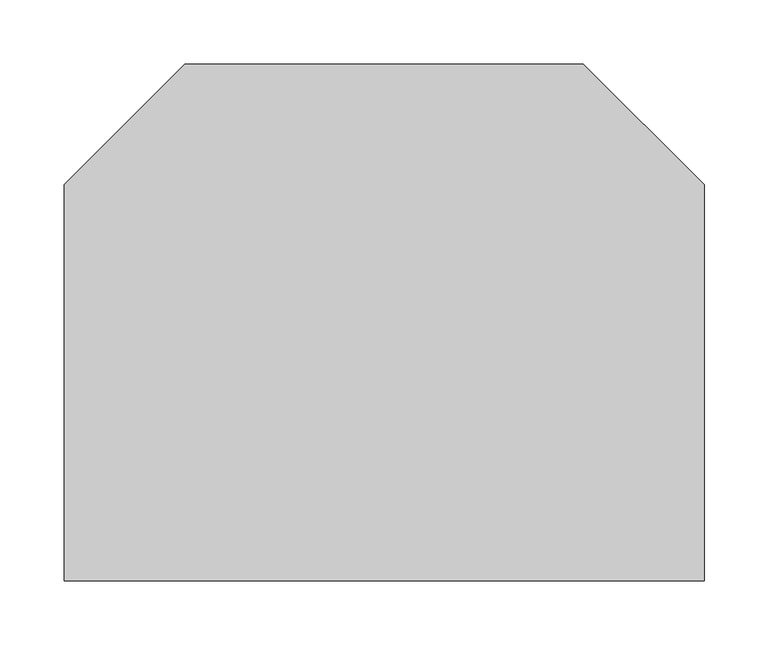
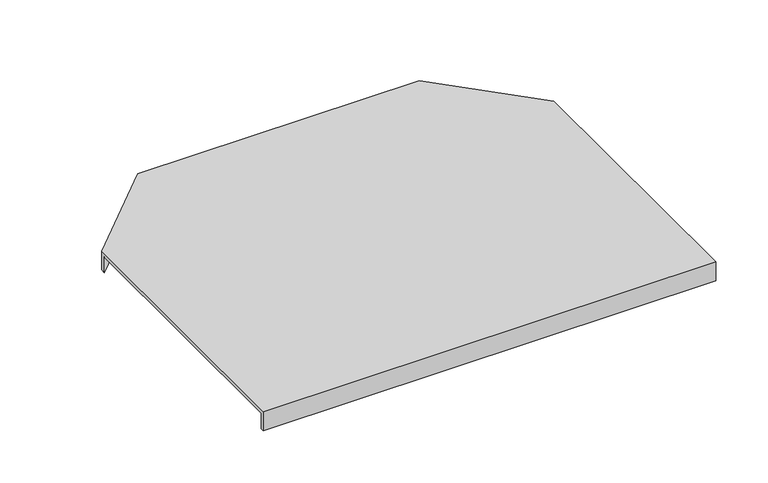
"""IFC4 building model written with IfcOpenShell, lengths in millimetres: proxy geometry, Horizontal Tee_Cover_TTEWT_Basorcanal : Basorcanal TTEWT 300."""

import ifcopenshell
import ifcopenshell.guid

model = None  # the IFC model being written
_history = None  # IfcOwnerHistory: only IFC2X3 demands one
_inside = {}  # id of a spatial element -> (the spatial element, [elements in it])
_under = {}  # id of a project, library or spatial element -> (it, [spatial elements below it])
_declared = {}  # id of a project -> (the project, [libraries it declares])
_typed = {}  # id of a type object -> (the type object, [elements of that type])
_made_of = {}  # id of a material, layer set ... -> (it, [elements and type objects made of it])


def new_model(schema):
    """Start an empty IFC model of exactly this schema.

    Asked for "IFC4X3", IfcOpenShell would pick the latest addendum, in which some entities
    have other attributes; the version numbers below select the first issue.
    IFC2X3 requires an IfcOwnerHistory on every rooted entity: one is made here for all.
    """
    global model, _history
    if schema == "IFC4X3":
        model = ifcopenshell.file(schema_version=(4, 3, 0, 0))
    else:
        model = ifcopenshell.file(schema=schema)
    _inside.clear()
    _under.clear()
    _declared.clear()
    _typed.clear()
    _made_of.clear()
    _history = None
    if model.schema == "IFC2X3":
        org = make("IfcOrganization", Name="unknown")
        user = make(
            "IfcPersonAndOrganization",
            ThePerson=make("IfcPerson", FamilyName="unknown"),
            TheOrganization=org,
        )
        app = make(
            "IfcApplication",
            ApplicationDeveloper=org,
            Version="unknown",
            ApplicationFullName="unknown",
            ApplicationIdentifier="unknown",
        )
        _history = make(
            "IfcOwnerHistory",
            OwningUser=user,
            OwningApplication=app,
            ChangeAction="ADDED",
            CreationDate=0,
        )
    return model


def make(cls, **values):
    """One entity of the class cls with the attributes given. An attribute that is None is left unset."""
    return model.create_entity(
        cls, **{name: value for name, value in values.items() if value is not None}
    )


def rooted(cls, **values):
    """An entity with a GlobalId (a new one), such as an element, a storey or a relation."""
    return make(cls, GlobalId=ifcopenshell.guid.new(), OwnerHistory=_history, **values)


def si_unit(unit_type, name, prefix=None):
    """IfcSIUnit, for example si_unit("LENGTHUNIT", "METRE", prefix="MILLI")."""
    return make("IfcSIUnit", UnitType=unit_type, Prefix=prefix, Name=name)


def assignment(units):
    """IfcUnitAssignment: the units of a project."""
    return None if units is None else make("IfcUnitAssignment", Units=units)


def point(xyz):
    """IfcCartesianPoint."""
    return None if xyz is None else make("IfcCartesianPoint", Coordinates=xyz)


def direction(xyz):
    """IfcDirection."""
    return None if xyz is None else make("IfcDirection", DirectionRatios=xyz)


def frame(location, z_axis=None, x_axis=None):
    """IfcAxis2Placement3D, a coordinate frame: its origin and axes. An axis left out is left unset."""
    return make(
        "IfcAxis2Placement3D",
        Location=point(location),
        Axis=direction(z_axis),
        RefDirection=direction(x_axis),
    )


def origin():
    """The frame at (0, 0, 0) with its axes left unset."""
    return frame((0.0, 0.0, 0.0))


def place(relative_to, where):
    """IfcLocalPlacement: puts the frame where relative to a parent placement (None: the world)."""
    return make(
        "IfcLocalPlacement", PlacementRelTo=relative_to, RelativePlacement=where
    )


def context(
    kind, dimensions, precision=None, world=None, true_north=None, identifier=None
):
    """IfcGeometricRepresentationContext, for example the 3D "Model" context."""
    return make(
        "IfcGeometricRepresentationContext",
        ContextIdentifier=identifier,
        ContextType=kind,
        CoordinateSpaceDimension=dimensions,
        Precision=precision,
        WorldCoordinateSystem=world,
        TrueNorth=true_north,
    )


def project(units=None, contexts=None):
    """IfcProject with its units and contexts."""
    return rooted(
        "IfcProject",
        Name="project",
        RepresentationContexts=contexts,
        UnitsInContext=assignment(units),
    )


def spatial(cls, under=None, at=None, **own):
    """A site, building, storey or space (cls), placed at a placement, below another one or the project."""
    s = rooted(cls, ObjectPlacement=at, **own)
    if under is not None:
        _under.setdefault(under.id(), (under, []))[1].append(s)
    return s


def faces_of(points, faces, orient=None, outer=None):
    """IfcFace entities. A face is a list of loops; a loop is a list of indices into points, from 0.

    orient and outer hold one flag for each loop. By default every Orientation is true, the
    first loop of a face is its IfcFaceOuterBound and the others are IfcFaceBound.
    """
    made = []
    for i, loops in enumerate(faces):
        bounds = []
        for j, loop in enumerate(loops):
            is_outer = j == 0 if outer is None else outer[i][j]
            bounds.append(
                make(
                    "IfcFaceOuterBound" if is_outer else "IfcFaceBound",
                    Bound=make("IfcPolyLoop", Polygon=[points[k] for k in loop]),
                    Orientation=True if orient is None else orient[i][j],
                )
            )
        made.append(make("IfcFace", Bounds=bounds))
    return made


def faceted_brep(points, faces, orient=None, outer=None, voids=None):
    """IfcFacetedBrep: a solid bounded by flat faces; with voids (closed shells), ...WithVoids."""
    shared = [point(p) for p in points]
    hull = make("IfcClosedShell", CfsFaces=faces_of(shared, faces, orient, outer))
    if voids is None:
        return make("IfcFacetedBrep", Outer=hull)
    return make(
        "IfcFacetedBrepWithVoids",
        Outer=hull,
        Voids=[
            make(cls, CfsFaces=faces_of(shared, fs, o, b)) for cls, fs, o, b in voids
        ],
    )


def shape(context_of_items, identifier, shape_type, items):
    """IfcShapeRepresentation: the items that make up one representation, for example the "Body"."""
    return make(
        "IfcShapeRepresentation",
        ContextOfItems=context_of_items,
        RepresentationIdentifier=identifier,
        RepresentationType=shape_type,
        Items=items,
    )


def source(mapping_origin, context_of_items, identifier, shape_type, items):
    """IfcRepresentationMap: a shape defined once, which mapped items show again and again."""
    return make(
        "IfcRepresentationMap",
        MappingOrigin=mapping_origin,
        MappedRepresentation=shape(context_of_items, identifier, shape_type, items),
    )


def transform(
    local_origin,
    x_axis=None,
    y_axis=None,
    z_axis=None,
    scale=None,
    scale2=None,
    scale3=None,
    uniform=True,
):
    """IfcCartesianTransformationOperator3D, or its non-uniform kind. x_axis, y_axis, z_axis: its Axis1, 2, 3."""
    if uniform:
        return make(
            "IfcCartesianTransformationOperator3D",
            Axis1=direction(x_axis),
            Axis2=direction(y_axis),
            LocalOrigin=point(local_origin),
            Scale=scale,
            Axis3=direction(z_axis),
        )
    return make(
        "IfcCartesianTransformationOperator3DnonUniform",
        Axis1=direction(x_axis),
        Axis2=direction(y_axis),
        LocalOrigin=point(local_origin),
        Scale=scale,
        Axis3=direction(z_axis),
        Scale2=scale2,
        Scale3=scale3,
    )


def mapped(mapping_source, mapping_target):
    """IfcMappedItem: shows the shape of a source again, moved by a transform."""
    return make(
        "IfcMappedItem", MappingSource=mapping_source, MappingTarget=mapping_target
    )


def made_of(thing, what):
    """Note that an element or type object is made of a material, layer set ...; save() writes the relation."""
    if what is not None:
        _made_of.setdefault(what.id(), (what, []))[1].append(thing)
    return thing


def element(
    cls,
    number,
    at=None,
    inside=None,
    cuts=None,
    type_object=None,
    material=None,
    context=None,
    identifier="Body",
    shape_type=None,
    held_by="IfcProductDefinitionShape",
    body=None,
    shapes=None,
    **own,
):
    """One element of the class cls, such as IfcWall. Its Tag is "e" and its number.

    at: its placement. inside: the storey or other place that contains it. cuts: it is an
    opening in that element (IfcRelVoidsElement). A single representation is given by context,
    identifier, shape_type and body (its items); several are given by shapes. held_by: the class
    of the entity that holds the representations. save() writes the other relations.
    """
    e = rooted(cls, Tag="e%d" % number, ObjectPlacement=at, **own)
    if body is not None:
        shapes = [shape(context, identifier, shape_type, body)]
    if shapes is not None:
        e.Representation = make(held_by, Representations=shapes)
    if inside is not None:
        _inside.setdefault(inside.id(), (inside, []))[1].append(e)
    if cuts is not None:
        rooted(
            "IfcRelVoidsElement", RelatingBuildingElement=cuts, RelatedOpeningElement=e
        )
    if type_object is not None:
        _typed.setdefault(type_object.id(), (type_object, []))[1].append(e)
    return made_of(e, material)


def aggregate(whole, parts):
    """IfcRelAggregates: a whole, such as a stair, and the parts it consists of."""
    return rooted("IfcRelAggregates", RelatingObject=whole, RelatedObjects=parts)


def save(model, path):
    """Write the relations noted so far, then the file.

    IfcRelAggregates (storeys below a building ...), IfcRelContainedInSpatialStructure (elements
    in a storey), IfcRelDefinesByType, IfcRelAssociatesMaterial and IfcRelDeclares: one each for
    every whole, place, type object, material and project.
    """
    for whole, parts in _under.values():
        aggregate(whole, parts)
    for where, things in _inside.values():
        rooted(
            "IfcRelContainedInSpatialStructure",
            RelatedElements=things,
            RelatingStructure=where,
        )
    for kind, things in _typed.values():
        rooted("IfcRelDefinesByType", RelatedObjects=things, RelatingType=kind)
    for what, things in _made_of.values():
        rooted("IfcRelAssociatesMaterial", RelatedObjects=things, RelatingMaterial=what)
    for by, libraries in _declared.values():
        rooted("IfcRelDeclares", RelatingContext=by, RelatedDefinitions=libraries)
    model.write(path)


def generic_models_9f40d4b4(model_context):
    return source(origin(), model_context, "Body", "Brep", [
        faceted_brep([(94.3431458, 100.0, 4.0), (0.0, 5.6568542, 4.0), (0.0, -304.0, 4.0), (500.0, -304.0, 4.0), (500.0, 5.6568542, 4.0), (405.6568542, 100.0, 4.0), (100.0, 100.0, 0.0), (400.0, 100.0, 0.0), (500.0, 0.0, 0.0), (500.0, -300.0, 0.0), (0.0, -300.0, 0.0), (0.0, 0.0, 0.0), (0.0, -300.0, -18.0), (0.0, -304.0, -18.0), (0.0, 5.6568542, -18.0), (0.0, 0.0, -18.0), (100.0, 100.0, -18.0), (94.3431458, 100.0, -18.0), (405.6568542, 100.0, -18.0), (400.0, 100.0, -18.0), (500.0, -300.0, -18.0), (500.0, -304.0, -18.0), (500.0, 0.0, -18.0), (500.0, 5.6568542, -18.0)], [[[0, 1, 2, 3, 4, 5]], [[6, 7, 8, 9, 10, 11]], [[11, 10, 12, 13, 2, 1, 14, 15]], [[7, 6, 16, 17, 0, 5, 18, 19]], [[15, 14, 17, 16]], [[15, 16, 6, 11]], [[1, 0, 17, 14]], [[20, 21, 13, 12]], [[20, 12, 10, 9]], [[3, 2, 13, 21]], [[9, 8, 22, 23, 4, 3, 21, 20]], [[22, 19, 18, 23]], [[19, 22, 8, 7]], [[5, 4, 23, 18]]]),
    ])


if __name__ == "__main__":
    model = new_model("IFC4")
    model_context = context("Model", 3, world=origin())
    ifc_project = project(units=[si_unit("LENGTHUNIT", "METRE", prefix="MILLI")], contexts=[model_context])
    site = spatial("IfcSite", under=ifc_project)
    building = spatial("IfcBuilding", under=site)
    placement = place(None, origin())
    generic_models_shape = generic_models_9f40d4b4(model_context)
    element("IfcBuildingElementProxy", 1, Name="Horizontal Tee_Cover_TTEWT_Basorcanal : Basorcanal TTEWT 300", ObjectType="Horizontal Tee_Cover_TTEWT_Basorcanal : Basorcanal TTEWT 300", at=placement, inside=building, context=model_context, shape_type="MappedRepresentation", body=[
        mapped(generic_models_shape, transform((0.0, 0.0, 0.0), x_axis=(1.0, 0.0, 0.0), y_axis=(0.0, 1.0, 0.0), z_axis=(0.0, 0.0, 1.0))),
    ])
    save(model, "model.ifc")
